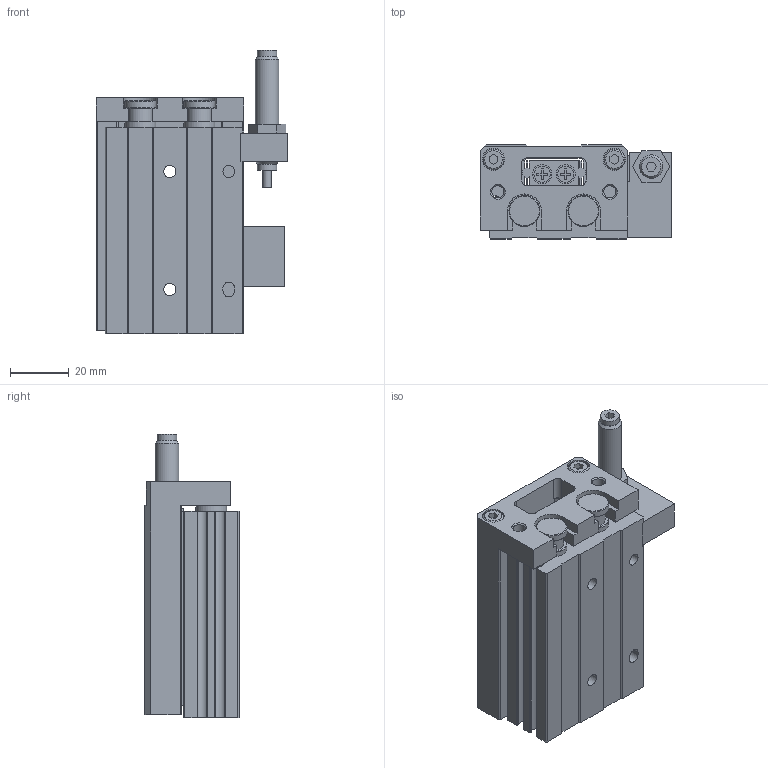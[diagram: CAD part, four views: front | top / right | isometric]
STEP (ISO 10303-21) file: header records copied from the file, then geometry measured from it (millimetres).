
FILE_DESCRIPTION( ( 'STEP AP214' ), '1' );
FILE_NAME( 'C:/Users/EMC02301/Desktop/ELSL图纸/ELSL12X20-S-BS.stp', '2026-08-05T07:40:15', ( 'License CC BY-ND 4.0' ), ( 'CADENAS' ), ' ', 'PARTsolutions', ' ' );
FILE_SCHEMA( ( 'AUTOMOTIVE_DESIGN { 1 0 10303 214 1 1 1 1 }' ) );
Length unit declared in the file: millimetre
Products named in the file (5): ELSL12X20-S-BS(0)(); _ELSL12X20-S-BS(HX-07)(HX-07-1)(0-body); _ELSL12X20-S-BS(0-rod); _FJ-ELS12-BS; _FJ-ELSL12-BS-(BS)
Assembly tree (4 placements, depth 2):
  ELSL12X20-S-BS(0)()
    _ELSL12X20-S-BS(HX-07)(HX-07-1)(0-body)
    _ELSL12X20-S-BS(0-rod)
    _FJ-ELS12-BS
    _FJ-ELSL12-BS-(BS)
Bounding box: 65 x 32 x 96.1 mm (x, y, z)
Volume: 110264.2 mm3; surface area: 46663.4 mm2
Topology: 4 solids, 4 shells, 491 faces, 1201 edges, 789 vertices
Faces by surface type: plane 374, cylinder 89, cone 26, torus 2
Full cylindrical faces by diameter (mm): 2.9 x1, 3.242 x12, 4 x2, 4.134 x4, 4.2 x2, 4.459 x2, 5.5 x8, 5.933 x2, 6 x4, 6.333 x2, 6.433 x2, 6.5 x8, 6.6 x2, 6.833 x2, 7 x2, 7.5 x2, 8 x2, 9 x4, 10.5 x6, 12 x4, 15.1 x2
Entity records: 17757 total; most frequent: CARTESIAN_POINT 2361, DIRECTION 2293, ORIENTED_EDGE 2174, EDGE_CURVE 1087, LINE 873, VECTOR 873, VERTEX_POINT 778, AXIS2_PLACEMENT_3D 710
